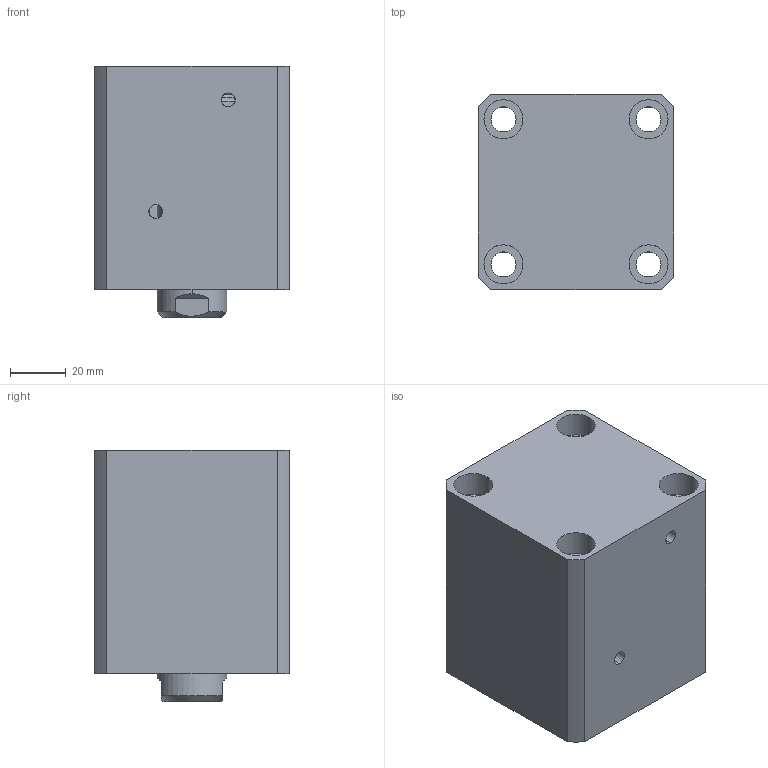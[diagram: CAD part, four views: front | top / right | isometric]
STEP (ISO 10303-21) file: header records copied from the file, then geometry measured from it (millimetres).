
FILE_DESCRIPTION (( 'STEP AP214' ), '1' );
FILE_NAME ('chtb-sdma40x25n_asm.STEP', '2018-06-06T07:39:46', ( 'Windows' ), ( 'Microsoft' ), 'SwSTEP 2.0', 'SolidWorks 2015', '' );
FILE_SCHEMA (( 'AUTOMOTIVE_DESIGN' ));
Length unit declared in the file: millimetre
Products named in the file (4): CHTB-SDMA40X25NBT; CHTB-SD40X25NHSG; CHTB-SD40QG; chtb-sdma40x25n_asm
Assembly tree (3 placements, depth 2):
  chtb-sdma40x25n_asm
    CHTB-SD40QG
    CHTB-SD40X25NHSG
    CHTB-SDMA40X25NBT
Bounding box: 70 x 70 x 90 mm (x, y, z)
Volume: 336595.8 mm3; surface area: 74366 mm2
Topology: 3 solids, 3 shells, 157 faces, 413 edges, 274 vertices
Faces by surface type: cylinder 84, plane 36, bspline 14, torus 14, cone 9
Entity records: 10139 total; most frequent: CARTESIAN_POINT 6157, ORIENTED_EDGE 814, DIRECTION 768, EDGE_CURVE 407, AXIS2_PLACEMENT_3D 326, VERTEX_POINT 274, EDGE_LOOP 193, CIRCLE 177
